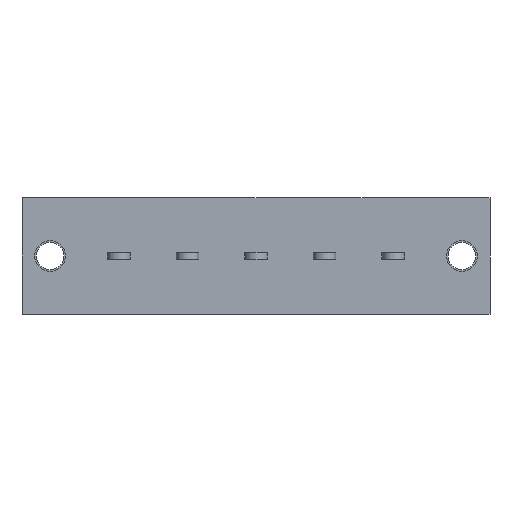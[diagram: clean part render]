
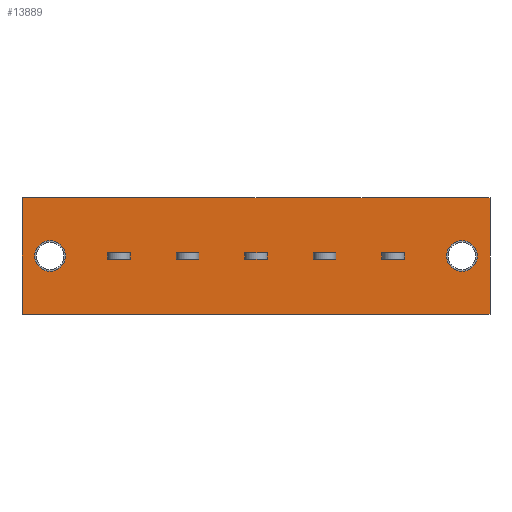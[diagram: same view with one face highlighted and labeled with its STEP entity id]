
A CAD part, front view. The second image highlights one B-rep face of the part: STEP entity #13889.
In plain terms, the highlighted planar face has unit normal (0, -1, 0).
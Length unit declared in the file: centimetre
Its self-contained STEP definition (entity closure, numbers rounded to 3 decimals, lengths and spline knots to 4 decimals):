
#765=CIRCLE('',#14536,0.225);
#830=CIRCLE('',#14861,0.225);
#847=VERTEX_POINT('',#17938);
#848=VERTEX_POINT('',#17939);
#852=VERTEX_POINT('',#17949);
#879=VERTEX_POINT('',#18016);
#931=VERTEX_POINT('',#18228);
#932=VERTEX_POINT('',#18229);
#936=VERTEX_POINT('',#18239);
#963=VERTEX_POINT('',#18306);
#1015=VERTEX_POINT('',#18518);
#1016=VERTEX_POINT('',#18519);
#1020=VERTEX_POINT('',#18529);
#1047=VERTEX_POINT('',#18596);
#1099=VERTEX_POINT('',#18808);
#1100=VERTEX_POINT('',#18809);
#1104=VERTEX_POINT('',#18819);
#1131=VERTEX_POINT('',#18886);
#1260=VERTEX_POINT('',#19322);
#1267=VERTEX_POINT('',#19335);
#1268=VERTEX_POINT('',#19350);
#1840=VERTEX_POINT('',#21569);
#1841=VERTEX_POINT('',#21571);
#1846=VERTEX_POINT('',#21583);
#1853=VERTEX_POINT('',#21608);
#1854=VERTEX_POINT('',#21609);
#1858=VERTEX_POINT('',#21619);
#1868=VERTEX_POINT('',#21650);
#2239=VECTOR('',#15055,1.);
#2243=VECTOR('',#15062,1.);
#2267=VECTOR('',#15113,1.);
#2270=VECTOR('',#15125,1.);
#2311=VECTOR('',#15279,1.);
#2315=VECTOR('',#15286,1.);
#2339=VECTOR('',#15337,1.);
#2342=VECTOR('',#15349,1.);
#2383=VECTOR('',#15503,1.);
#2387=VECTOR('',#15510,1.);
#2411=VECTOR('',#15561,1.);
#2414=VECTOR('',#15573,1.);
#2455=VECTOR('',#15727,1.);
#2459=VECTOR('',#15734,1.);
#2483=VECTOR('',#15785,1.);
#2486=VECTOR('',#15797,1.);
#2629=VECTOR('',#16127,1.);
#3296=VECTOR('',#17229,1.);
#3313=VECTOR('',#17256,1.);
#3317=VECTOR('',#17263,1.);
#3327=VECTOR('',#17291,1.);
#3330=VECTOR('',#17303,1.);
#3371=VECTOR('',#17369,1.);
#3372=VECTOR('',#17370,1.);
#3783=LINE('',#17937,#2239);
#3787=LINE('',#17948,#2243);
#3811=LINE('',#18015,#2267);
#3814=LINE('',#18026,#2270);
#3855=LINE('',#18227,#2311);
#3859=LINE('',#18238,#2315);
#3883=LINE('',#18305,#2339);
#3886=LINE('',#18316,#2342);
#3927=LINE('',#18517,#2383);
#3931=LINE('',#18528,#2387);
#3955=LINE('',#18595,#2411);
#3958=LINE('',#18606,#2414);
#3999=LINE('',#18807,#2455);
#4003=LINE('',#18818,#2459);
#4027=LINE('',#18885,#2483);
#4030=LINE('',#18896,#2486);
#4173=LINE('',#19336,#2629);
#4840=LINE('',#21570,#3296);
#4857=LINE('',#21607,#3313);
#4861=LINE('',#21618,#3317);
#4871=LINE('',#21649,#3327);
#4874=LINE('',#21660,#3330);
#4915=LINE('',#21750,#3371);
#4916=LINE('',#21751,#3372);
#5327=EDGE_CURVE('',#847,#848,#3783,.T.);
#5332=EDGE_CURVE('',#852,#847,#3787,.T.);
#5365=EDGE_CURVE('',#848,#879,#3811,.T.);
#5370=EDGE_CURVE('',#879,#852,#3814,.T.);
#5451=EDGE_CURVE('',#931,#932,#3855,.T.);
#5456=EDGE_CURVE('',#936,#931,#3859,.T.);
#5489=EDGE_CURVE('',#932,#963,#3883,.T.);
#5494=EDGE_CURVE('',#963,#936,#3886,.T.);
#5575=EDGE_CURVE('',#1015,#1016,#3927,.T.);
#5580=EDGE_CURVE('',#1020,#1015,#3931,.T.);
#5613=EDGE_CURVE('',#1016,#1047,#3955,.T.);
#5618=EDGE_CURVE('',#1047,#1020,#3958,.T.);
#5699=EDGE_CURVE('',#1099,#1100,#3999,.T.);
#5704=EDGE_CURVE('',#1104,#1099,#4003,.T.);
#5737=EDGE_CURVE('',#1100,#1131,#4027,.T.);
#5742=EDGE_CURVE('',#1131,#1104,#4030,.T.);
#5940=EDGE_CURVE('',#1267,#1260,#4173,.T.);
#5947=EDGE_CURVE('',#1268,#1268,#765,.T.);
#6793=EDGE_CURVE('',#1841,#1840,#4840,.T.);
#6799=EDGE_CURVE('',#1846,#1846,#830,.T.);
#6811=EDGE_CURVE('',#1853,#1854,#4857,.T.);
#6816=EDGE_CURVE('',#1858,#1853,#4861,.T.);
#6831=EDGE_CURVE('',#1854,#1868,#4871,.T.);
#6836=EDGE_CURVE('',#1868,#1858,#4874,.T.);
#6881=EDGE_CURVE('',#1840,#1260,#4915,.T.);
#6882=EDGE_CURVE('',#1267,#1841,#4916,.T.);
#10417=ORIENTED_EDGE('',*,*,#5332,.T.);
#10418=ORIENTED_EDGE('',*,*,#5327,.T.);
#10419=ORIENTED_EDGE('',*,*,#5365,.T.);
#10420=ORIENTED_EDGE('',*,*,#5370,.T.);
#10421=ORIENTED_EDGE('',*,*,#5456,.T.);
#10422=ORIENTED_EDGE('',*,*,#5451,.T.);
#10423=ORIENTED_EDGE('',*,*,#5489,.T.);
#10424=ORIENTED_EDGE('',*,*,#5494,.T.);
#10425=ORIENTED_EDGE('',*,*,#5580,.T.);
#10426=ORIENTED_EDGE('',*,*,#5575,.T.);
#10427=ORIENTED_EDGE('',*,*,#5613,.T.);
#10428=ORIENTED_EDGE('',*,*,#5618,.T.);
#10429=ORIENTED_EDGE('',*,*,#5704,.T.);
#10430=ORIENTED_EDGE('',*,*,#5699,.T.);
#10431=ORIENTED_EDGE('',*,*,#5737,.T.);
#10432=ORIENTED_EDGE('',*,*,#5742,.T.);
#10433=ORIENTED_EDGE('',*,*,#5947,.T.);
#10434=ORIENTED_EDGE('',*,*,#6799,.T.);
#10435=ORIENTED_EDGE('',*,*,#6816,.T.);
#10436=ORIENTED_EDGE('',*,*,#6811,.T.);
#10437=ORIENTED_EDGE('',*,*,#6831,.T.);
#10438=ORIENTED_EDGE('',*,*,#6836,.T.);
#10439=ORIENTED_EDGE('',*,*,#6881,.T.);
#10440=ORIENTED_EDGE('',*,*,#5940,.F.);
#10441=ORIENTED_EDGE('',*,*,#6882,.T.);
#10442=ORIENTED_EDGE('',*,*,#6793,.T.);
#12206=EDGE_LOOP('',(#10417,#10418,#10419,#10420));
#12207=EDGE_LOOP('',(#10421,#10422,#10423,#10424));
#12208=EDGE_LOOP('',(#10425,#10426,#10427,#10428));
#12209=EDGE_LOOP('',(#10429,#10430,#10431,#10432));
#12210=EDGE_LOOP('',(#10433));
#12211=EDGE_LOOP('',(#10434));
#12212=EDGE_LOOP('',(#10435,#10436,#10437,#10438));
#12213=EDGE_LOOP('',(#10439,#10440,#10441,#10442));
#13090=FACE_BOUND('',#12206,.T.);
#13091=FACE_BOUND('',#12207,.T.);
#13092=FACE_BOUND('',#12208,.T.);
#13093=FACE_BOUND('',#12209,.T.);
#13094=FACE_BOUND('',#12210,.T.);
#13095=FACE_BOUND('',#12211,.T.);
#13096=FACE_BOUND('',#12212,.T.);
#13097=FACE_BOUND('',#12213,.T.);
#13889=ADVANCED_FACE('',(#13090,#13091,#13092,#13093,#13094,#13095,#13096,
#13097),#23691,.T.);
#14536=AXIS2_PLACEMENT_3D('',#19349,#16141,#16142);
#14861=AXIS2_PLACEMENT_3D('',#21582,#17237,#17238);
#14906=AXIS2_PLACEMENT_3D('',#21749,#17368,$);
#15055=DIRECTION('',(0.,0.,-1.));
#15062=DIRECTION('',(1.,0.,0.));
#15113=DIRECTION('',(-1.,0.,0.));
#15125=DIRECTION('',(0.,0.,1.));
#15279=DIRECTION('',(0.,0.,-1.));
#15286=DIRECTION('',(1.,0.,0.));
#15337=DIRECTION('',(-1.,0.,0.));
#15349=DIRECTION('',(0.,0.,1.));
#15503=DIRECTION('',(0.,0.,-1.));
#15510=DIRECTION('',(1.,0.,0.));
#15561=DIRECTION('',(-1.,0.,0.));
#15573=DIRECTION('',(0.,0.,1.));
#15727=DIRECTION('',(0.,0.,-1.));
#15734=DIRECTION('',(1.,0.,0.));
#15785=DIRECTION('',(-1.,0.,0.));
#15797=DIRECTION('',(0.,0.,1.));
#16127=DIRECTION('',(0.,0.,-1.));
#16141=DIRECTION('',(0.,1.,0.));
#16142=DIRECTION('',(0.,0.,0.225));
#17229=DIRECTION('',(0.,0.,-1.));
#17237=DIRECTION('',(0.,1.,0.));
#17238=DIRECTION('',(0.,0.,0.225));
#17256=DIRECTION('',(0.,0.,-1.));
#17263=DIRECTION('',(1.,0.,0.));
#17291=DIRECTION('',(-1.,0.,0.));
#17303=DIRECTION('',(0.,0.,1.));
#17368=DIRECTION('',(0.,-1.,0.));
#17369=DIRECTION('',(1.,0.,0.));
#17370=DIRECTION('',(-1.,0.,0.));
#17937=CARTESIAN_POINT('',(4.755,0.,0.));
#17938=CARTESIAN_POINT('',(4.755,0.,0.05));
#17939=CARTESIAN_POINT('',(4.755,0.,-0.05));
#17948=CARTESIAN_POINT('',(2.295,0.,0.05));
#17949=CARTESIAN_POINT('',(4.425,0.,0.05));
#18015=CARTESIAN_POINT('',(2.295,0.,-0.05));
#18016=CARTESIAN_POINT('',(4.425,0.,-0.05));
#18026=CARTESIAN_POINT('',(4.425,0.,0.));
#18227=CARTESIAN_POINT('',(3.755,0.,0.));
#18228=CARTESIAN_POINT('',(3.755,0.,0.05));
#18229=CARTESIAN_POINT('',(3.755,0.,-0.05));
#18238=CARTESIAN_POINT('',(1.795,0.,0.05));
#18239=CARTESIAN_POINT('',(3.425,0.,0.05));
#18305=CARTESIAN_POINT('',(1.795,0.,-0.05));
#18306=CARTESIAN_POINT('',(3.425,0.,-0.05));
#18316=CARTESIAN_POINT('',(3.425,0.,0.));
#18517=CARTESIAN_POINT('',(2.755,0.,0.));
#18518=CARTESIAN_POINT('',(2.755,0.,0.05));
#18519=CARTESIAN_POINT('',(2.755,0.,-0.05));
#18528=CARTESIAN_POINT('',(1.295,0.,0.05));
#18529=CARTESIAN_POINT('',(2.425,0.,0.05));
#18595=CARTESIAN_POINT('',(1.295,0.,-0.05));
#18596=CARTESIAN_POINT('',(2.425,0.,-0.05));
#18606=CARTESIAN_POINT('',(2.425,0.,0.));
#18807=CARTESIAN_POINT('',(1.755,0.,0.));
#18808=CARTESIAN_POINT('',(1.755,0.,0.05));
#18809=CARTESIAN_POINT('',(1.755,0.,-0.05));
#18818=CARTESIAN_POINT('',(0.795,0.,0.05));
#18819=CARTESIAN_POINT('',(1.425,0.,0.05));
#18885=CARTESIAN_POINT('',(0.795,0.,-0.05));
#18886=CARTESIAN_POINT('',(1.425,0.,-0.05));
#18896=CARTESIAN_POINT('',(1.425,0.,0.));
#19322=CARTESIAN_POINT('',(6.,0.,-0.85));
#19335=CARTESIAN_POINT('',(6.,0.,0.85));
#19336=CARTESIAN_POINT('',(6.,0.,0.85));
#19349=CARTESIAN_POINT('',(5.59,0.,0.));
#19350=CARTESIAN_POINT('',(5.59,0.,-0.225));
#21569=CARTESIAN_POINT('',(-0.82,0.,-0.85));
#21570=CARTESIAN_POINT('',(-0.82,0.,0.85));
#21571=CARTESIAN_POINT('',(-0.82,0.,0.85));
#21582=CARTESIAN_POINT('',(-0.41,0.,0.));
#21583=CARTESIAN_POINT('',(-0.41,0.,-0.225));
#21607=CARTESIAN_POINT('',(0.755,0.,0.));
#21608=CARTESIAN_POINT('',(0.755,0.,0.05));
#21609=CARTESIAN_POINT('',(0.755,0.,-0.05));
#21618=CARTESIAN_POINT('',(0.295,0.,0.05));
#21619=CARTESIAN_POINT('',(0.425,0.,0.05));
#21649=CARTESIAN_POINT('',(0.295,0.,-0.05));
#21650=CARTESIAN_POINT('',(0.425,0.,-0.05));
#21660=CARTESIAN_POINT('',(0.425,0.,0.));
#21749=CARTESIAN_POINT('',(0.,0.,0.));
#21750=CARTESIAN_POINT('',(4.,0.,-0.85));
#21751=CARTESIAN_POINT('',(0.,0.,0.85));
#23691=PLANE('',#14906);
